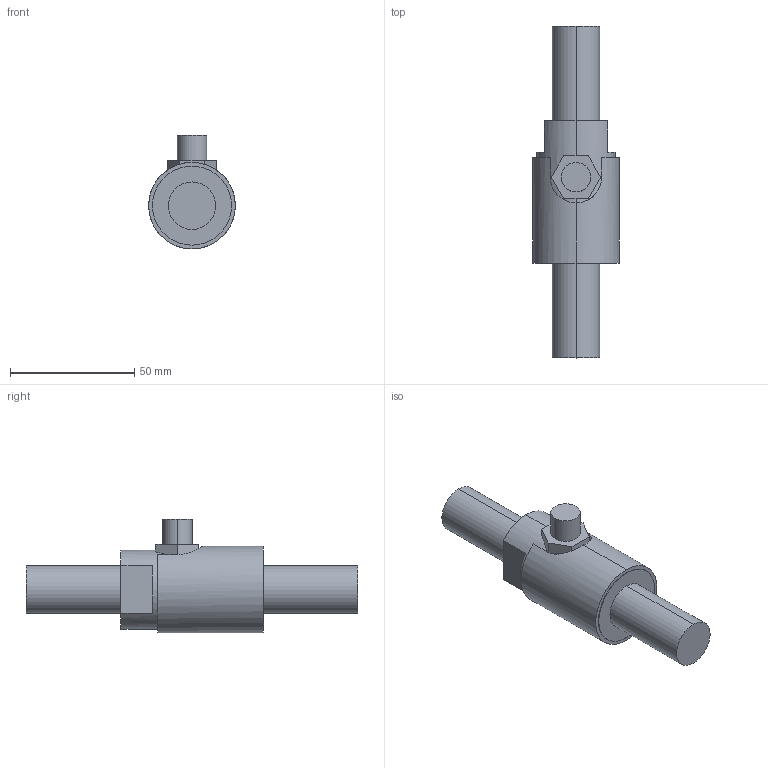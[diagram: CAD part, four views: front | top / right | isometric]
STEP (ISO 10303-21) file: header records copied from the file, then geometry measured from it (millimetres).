
FILE_DESCRIPTION (( 'STEP AP214' ), '1' );
FILE_NAME ('TT53-10KLB.STEP', '2024-09-05T14:25:14', ( '' ), ( '' ), 'SwSTEP 2.0', 'SolidWorks 2008', '' );
FILE_SCHEMA (( 'AUTOMOTIVE_DESIGN' ));
Length unit declared in the file: inch
Products named in the file (1): TT53-10KLB
Bounding box: 34.8 x 133.35 x 45.78 mm (x, y, z)
Volume: 74149.5 mm3; surface area: 13188.3 mm2
Topology: 1 solids, 1 shells, 33 faces, 81 edges, 54 vertices
Faces by surface type: plane 20, cylinder 13
Entity records: 1102 total; most frequent: CARTESIAN_POINT 277, DIRECTION 173, ORIENTED_EDGE 162, EDGE_CURVE 81, AXIS2_PLACEMENT_3D 66, VERTEX_POINT 54, LINE 41, VECTOR 41
